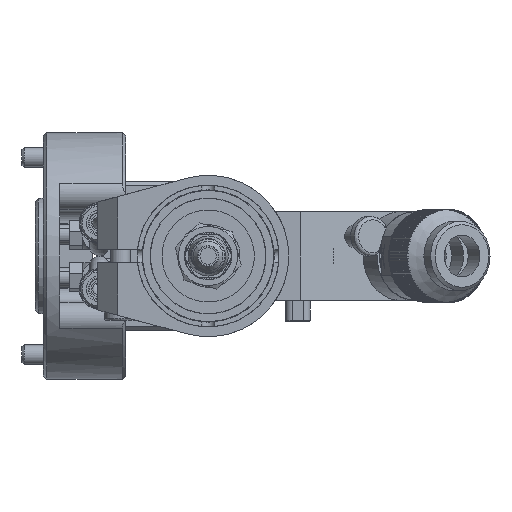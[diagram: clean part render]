
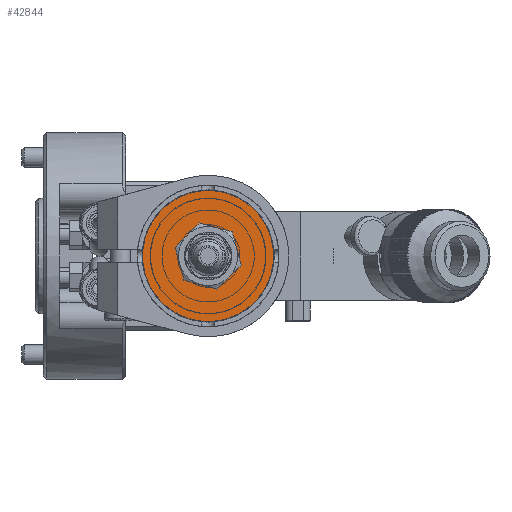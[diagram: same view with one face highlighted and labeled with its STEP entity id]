
A CAD part, left-side view. The second image highlights one B-rep face of the part: STEP entity #42844.
In plain terms, the highlighted planar face has unit normal (-1, 0, 0).
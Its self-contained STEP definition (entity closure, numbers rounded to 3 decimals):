
#1326=FACE_BOUND('',#9597,.T.);
#2295=PLANE('',#47032);
#4402=CIRCLE('',#47033,19.9);
#4403=CIRCLE('',#47034,19.9);
#4404=CIRCLE('',#47035,9.);
#4405=CIRCLE('',#47036,9.);
#4406=CIRCLE('',#47037,9.);
#4407=CIRCLE('',#47038,9.);
#4408=CIRCLE('',#47039,9.);
#4409=CIRCLE('',#47040,9.);
#7031=FACE_OUTER_BOUND('',#9596,.T.);
#9596=EDGE_LOOP('',(#36851,#36852));
#9597=EDGE_LOOP('',(#36853,#36854,#36855,#36856,#36857,#36858));
#19502=VERTEX_POINT('',#84059);
#19503=VERTEX_POINT('',#84060);
#19504=VERTEX_POINT('',#84063);
#19505=VERTEX_POINT('',#84064);
#19506=VERTEX_POINT('',#84066);
#19507=VERTEX_POINT('',#84068);
#19508=VERTEX_POINT('',#84070);
#19509=VERTEX_POINT('',#84072);
#25508=EDGE_CURVE('',#19502,#19503,#4402,.T.);
#25509=EDGE_CURVE('',#19503,#19502,#4403,.T.);
#25510=EDGE_CURVE('',#19504,#19505,#4404,.T.);
#25511=EDGE_CURVE('',#19505,#19506,#4405,.T.);
#25512=EDGE_CURVE('',#19506,#19507,#4406,.T.);
#25513=EDGE_CURVE('',#19507,#19508,#4407,.T.);
#25514=EDGE_CURVE('',#19508,#19509,#4408,.T.);
#25515=EDGE_CURVE('',#19509,#19504,#4409,.T.);
#36851=ORIENTED_EDGE('',*,*,#25508,.T.);
#36852=ORIENTED_EDGE('',*,*,#25509,.T.);
#36853=ORIENTED_EDGE('',*,*,#25510,.T.);
#36854=ORIENTED_EDGE('',*,*,#25511,.T.);
#36855=ORIENTED_EDGE('',*,*,#25512,.T.);
#36856=ORIENTED_EDGE('',*,*,#25513,.T.);
#36857=ORIENTED_EDGE('',*,*,#25514,.T.);
#36858=ORIENTED_EDGE('',*,*,#25515,.T.);
#42844=ADVANCED_FACE('',(#7031,#1326),#2295,.F.);
#47032=AXIS2_PLACEMENT_3D('',#84058,#57376,#57377);
#47033=AXIS2_PLACEMENT_3D('',#84061,#57378,#57379);
#47034=AXIS2_PLACEMENT_3D('',#84062,#57380,#57381);
#47035=AXIS2_PLACEMENT_3D('',#84065,#57382,#57383);
#47036=AXIS2_PLACEMENT_3D('',#84067,#57384,#57385);
#47037=AXIS2_PLACEMENT_3D('',#84069,#57386,#57387);
#47038=AXIS2_PLACEMENT_3D('',#84071,#57388,#57389);
#47039=AXIS2_PLACEMENT_3D('',#84073,#57390,#57391);
#47040=AXIS2_PLACEMENT_3D('',#84074,#57392,#57393);
#57376=DIRECTION('center_axis',(1.,0.,0.));
#57377=DIRECTION('ref_axis',(0.,0.707,-0.707));
#57378=DIRECTION('center_axis',(-1.,0.,0.));
#57379=DIRECTION('ref_axis',(0.,-0.707,0.707));
#57380=DIRECTION('center_axis',(-1.,0.,0.));
#57381=DIRECTION('ref_axis',(0.,-0.707,0.707));
#57382=DIRECTION('center_axis',(1.,0.,0.));
#57383=DIRECTION('ref_axis',(0.,0.707,0.707));
#57384=DIRECTION('center_axis',(1.,0.,0.));
#57385=DIRECTION('ref_axis',(0.,0.707,0.707));
#57386=DIRECTION('center_axis',(1.,0.,0.));
#57387=DIRECTION('ref_axis',(0.,0.707,0.707));
#57388=DIRECTION('center_axis',(1.,0.,0.));
#57389=DIRECTION('ref_axis',(0.,0.707,0.707));
#57390=DIRECTION('center_axis',(1.,0.,0.));
#57391=DIRECTION('ref_axis',(0.,0.707,0.707));
#57392=DIRECTION('center_axis',(1.,0.,0.));
#57393=DIRECTION('ref_axis',(0.,0.707,0.707));
#84058=CARTESIAN_POINT('Origin',(-166.5,4.243,-4.243));
#84059=CARTESIAN_POINT('',(-166.5,-14.071,14.071));
#84060=CARTESIAN_POINT('',(-166.5,-14.071,-14.071));
#84061=CARTESIAN_POINT('Origin',(-166.5,0.,0.));
#84062=CARTESIAN_POINT('Origin',(-166.5,0.,0.));
#84063=CARTESIAN_POINT('',(-166.5,-6.364,-6.364));
#84064=CARTESIAN_POINT('',(-166.5,2.329,-8.693));
#84065=CARTESIAN_POINT('Origin',(-166.5,0.,0.));
#84066=CARTESIAN_POINT('',(-166.5,8.693,-2.329));
#84067=CARTESIAN_POINT('Origin',(-166.5,0.,0.));
#84068=CARTESIAN_POINT('',(-166.5,6.364,6.364));
#84069=CARTESIAN_POINT('Origin',(-166.5,0.,0.));
#84070=CARTESIAN_POINT('',(-166.5,-2.329,8.693));
#84071=CARTESIAN_POINT('Origin',(-166.5,0.,0.));
#84072=CARTESIAN_POINT('',(-166.5,-8.693,2.329));
#84073=CARTESIAN_POINT('Origin',(-166.5,0.,0.));
#84074=CARTESIAN_POINT('Origin',(-166.5,0.,0.));
